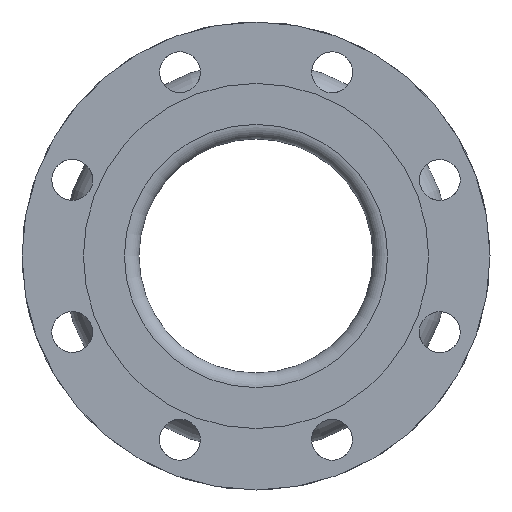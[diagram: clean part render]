
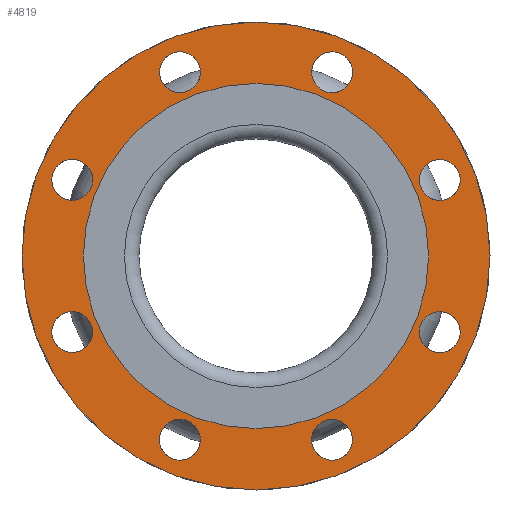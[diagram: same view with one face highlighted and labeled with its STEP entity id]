
A CAD part, left-side view. The second image highlights one B-rep face of the part: STEP entity #4819.
In plain terms, the highlighted planar face has unit normal (-1, 0, 0).
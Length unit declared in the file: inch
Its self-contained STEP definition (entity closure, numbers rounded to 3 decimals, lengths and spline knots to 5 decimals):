
#512=PLANE('',#5137);
#590=FACE_BOUND('',#1047,.T.);
#591=FACE_BOUND('',#1048,.T.);
#592=FACE_BOUND('',#1049,.T.);
#593=FACE_BOUND('',#1050,.T.);
#594=FACE_BOUND('',#1051,.T.);
#595=FACE_BOUND('',#1052,.T.);
#596=FACE_BOUND('',#1053,.T.);
#597=FACE_BOUND('',#1054,.T.);
#598=FACE_BOUND('',#1055,.T.);
#750=FACE_OUTER_BOUND('',#1046,.T.);
#1046=EDGE_LOOP('',(#3042));
#1047=EDGE_LOOP('',(#3043));
#1048=EDGE_LOOP('',(#3044));
#1049=EDGE_LOOP('',(#3045));
#1050=EDGE_LOOP('',(#3046));
#1051=EDGE_LOOP('',(#3047));
#1052=EDGE_LOOP('',(#3048));
#1053=EDGE_LOOP('',(#3049));
#1054=EDGE_LOOP('',(#3050));
#1055=EDGE_LOOP('',(#3051));
#1455=CIRCLE('',#5091,0.4375);
#1457=CIRCLE('',#5094,0.4375);
#1459=CIRCLE('',#5097,0.4375);
#1461=CIRCLE('',#5100,0.4375);
#1463=CIRCLE('',#5103,0.4375);
#1465=CIRCLE('',#5106,0.4375);
#1467=CIRCLE('',#5109,0.4375);
#1469=CIRCLE('',#5112,0.4375);
#1486=CIRCLE('',#5138,5.);
#1487=CIRCLE('',#5139,3.6875);
#1875=VERTEX_POINT('',#7419);
#1877=VERTEX_POINT('',#7424);
#1879=VERTEX_POINT('',#7429);
#1881=VERTEX_POINT('',#7434);
#1883=VERTEX_POINT('',#7439);
#1885=VERTEX_POINT('',#7444);
#1887=VERTEX_POINT('',#7449);
#1889=VERTEX_POINT('',#7454);
#1906=VERTEX_POINT('',#7497);
#1907=VERTEX_POINT('',#7499);
#2351=EDGE_CURVE('',#1875,#1875,#1455,.T.);
#2353=EDGE_CURVE('',#1877,#1877,#1457,.T.);
#2355=EDGE_CURVE('',#1879,#1879,#1459,.T.);
#2357=EDGE_CURVE('',#1881,#1881,#1461,.T.);
#2359=EDGE_CURVE('',#1883,#1883,#1463,.T.);
#2361=EDGE_CURVE('',#1885,#1885,#1465,.T.);
#2363=EDGE_CURVE('',#1887,#1887,#1467,.T.);
#2365=EDGE_CURVE('',#1889,#1889,#1469,.T.);
#2382=EDGE_CURVE('',#1906,#1906,#1486,.T.);
#2383=EDGE_CURVE('',#1907,#1907,#1487,.T.);
#3042=ORIENTED_EDGE('',*,*,#2382,.F.);
#3043=ORIENTED_EDGE('',*,*,#2351,.T.);
#3044=ORIENTED_EDGE('',*,*,#2353,.T.);
#3045=ORIENTED_EDGE('',*,*,#2355,.T.);
#3046=ORIENTED_EDGE('',*,*,#2357,.T.);
#3047=ORIENTED_EDGE('',*,*,#2359,.T.);
#3048=ORIENTED_EDGE('',*,*,#2361,.T.);
#3049=ORIENTED_EDGE('',*,*,#2363,.T.);
#3050=ORIENTED_EDGE('',*,*,#2365,.T.);
#3051=ORIENTED_EDGE('',*,*,#2383,.T.);
#4819=ADVANCED_FACE('',(#750,#590,#591,#592,#593,#594,#595,#596,#597,#598),
#512,.T.);
#5091=AXIS2_PLACEMENT_3D('',#7420,#5795,#5796);
#5094=AXIS2_PLACEMENT_3D('',#7425,#5801,#5802);
#5097=AXIS2_PLACEMENT_3D('',#7430,#5807,#5808);
#5100=AXIS2_PLACEMENT_3D('',#7435,#5813,#5814);
#5103=AXIS2_PLACEMENT_3D('',#7440,#5819,#5820);
#5106=AXIS2_PLACEMENT_3D('',#7445,#5825,#5826);
#5109=AXIS2_PLACEMENT_3D('',#7450,#5831,#5832);
#5112=AXIS2_PLACEMENT_3D('',#7455,#5837,#5838);
#5137=AXIS2_PLACEMENT_3D('',#7496,#5887,#5888);
#5138=AXIS2_PLACEMENT_3D('',#7498,#5889,#5890);
#5139=AXIS2_PLACEMENT_3D('',#7500,#5891,#5892);
#5795=DIRECTION('center_axis',(1.,0.,0.));
#5796=DIRECTION('ref_axis',(0.,-0.707,-0.707));
#5801=DIRECTION('center_axis',(1.,0.,0.));
#5802=DIRECTION('ref_axis',(0.,-1.,0.));
#5807=DIRECTION('center_axis',(1.,0.,0.));
#5808=DIRECTION('ref_axis',(0.,-0.707,0.707));
#5813=DIRECTION('center_axis',(1.,0.,0.));
#5814=DIRECTION('ref_axis',(0.,0.,1.));
#5819=DIRECTION('center_axis',(1.,0.,0.));
#5820=DIRECTION('ref_axis',(0.,0.707,0.707));
#5825=DIRECTION('center_axis',(1.,0.,0.));
#5826=DIRECTION('ref_axis',(0.,1.,0.));
#5831=DIRECTION('center_axis',(1.,0.,0.));
#5832=DIRECTION('ref_axis',(0.,0.707,-0.707));
#5837=DIRECTION('center_axis',(1.,0.,0.));
#5838=DIRECTION('ref_axis',(0.,0.,-1.));
#5887=DIRECTION('center_axis',(-1.,0.,0.));
#5888=DIRECTION('ref_axis',(0.,0.,1.));
#5889=DIRECTION('center_axis',(1.,0.,0.));
#5890=DIRECTION('ref_axis',(0.,0.,-1.));
#5891=DIRECTION('center_axis',(1.,0.,0.));
#5892=DIRECTION('ref_axis',(0.,0.,-1.));
#7419=CARTESIAN_POINT('',(-5.,1.93576,-3.61713));
#7420=CARTESIAN_POINT('Origin',(-5.,1.6264,-3.92649));
#7424=CARTESIAN_POINT('',(-5.,-1.1889,-3.92649));
#7425=CARTESIAN_POINT('Origin',(-5.,-1.6264,-3.92649));
#7429=CARTESIAN_POINT('',(-5.,-3.61713,-1.93576));
#7430=CARTESIAN_POINT('Origin',(-5.,-3.92649,-1.6264));
#7434=CARTESIAN_POINT('',(-5.,-3.92649,1.1889));
#7435=CARTESIAN_POINT('Origin',(-5.,-3.92649,1.6264));
#7439=CARTESIAN_POINT('',(-5.,-1.93576,3.61713));
#7440=CARTESIAN_POINT('Origin',(-5.,-1.6264,3.92649));
#7444=CARTESIAN_POINT('',(-5.,1.1889,3.92649));
#7445=CARTESIAN_POINT('Origin',(-5.,1.6264,3.92649));
#7449=CARTESIAN_POINT('',(-5.,3.61713,1.93576));
#7450=CARTESIAN_POINT('Origin',(-5.,3.92649,1.6264));
#7454=CARTESIAN_POINT('',(-5.,3.92649,-1.1889));
#7455=CARTESIAN_POINT('Origin',(-5.,3.92649,-1.6264));
#7496=CARTESIAN_POINT('Origin',(-5.,5.,0.));
#7497=CARTESIAN_POINT('',(-5.,5.,0.));
#7498=CARTESIAN_POINT('Origin',(-5.,0.,0.));
#7499=CARTESIAN_POINT('',(-5.,3.6875,0.));
#7500=CARTESIAN_POINT('Origin',(-5.,0.,0.));
